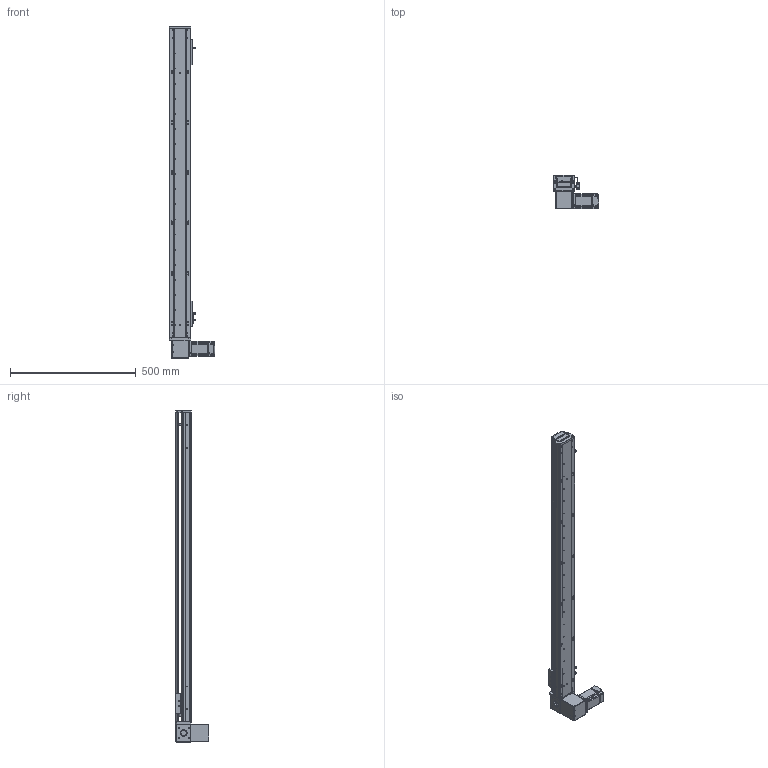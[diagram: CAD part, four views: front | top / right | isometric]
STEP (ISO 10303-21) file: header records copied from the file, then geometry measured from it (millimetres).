
FILE_DESCRIPTION (( 'STEP AP203' ), '1' );
FILE_NAME ('RY80-T-300-DR.SLDASM_1050.step', '2021-03-01T01:50:13', ( '盈信电脑' ), ( '东莞市道滘镇水果街19号' ), 'SwSTEP 2.0', 'SolidWorks 2012', '' );
FILE_SCHEMA (( 'CONFIG_CONTROL_DESIGN' ));
Products named in the file (18): RY80-T-M4蹟翐3; 1; RY80-T萇儂假蚾啣; RY80-T-300-DR.SLDASM_1050; 滅袉蝶18-10; RY80-T-上下折同步轮盖板; RY80-T翋肮祭謫裔啣; RY80-T肮祭謫狟殏俋欶; RY80-T肮祭湍揤輸1; RY80-T肮祭湍揤輸2; 覜茼ん672; RY80俋离覜茼え; RY80-T-翋肮祭謫釱; RY80-T肮祭謫臏賑輸; RY80-T綴裔啣; RY80-T-300-DR倰第奻裔啣_1050; 672嫖萇羲壽假蚾釱; RY80-T-300-DR倰第菁釱_1050
Assembly tree (21 placements, depth 2):
  RY80-T-300-DR.SLDASM_1050
    RY80-T-300-DR倰第菁釱_1050
    RY80-T肮祭謫臏賑輸
    RY80-T-300-DR倰第奻裔啣_1050
    RY80-T綴裔啣
    672嫖萇羲壽假蚾釱  x2
    覜茼ん672  x3
    RY80俋离覜茼え
    RY80-T-翋肮祭謫釱
    RY80-T肮祭湍揤輸1
    RY80-T肮祭湍揤輸2
    滅袉蝶18-10  x2
    RY80-T翋肮祭謫裔啣
    RY80-T-上下折同步轮盖板
    RY80-T肮祭謫狟殏俋欶
    RY80-T萇儂假蚾啣
    1
    RY80-T-M4蹟翐3
Bounding box: 180 x 134.5 x 1320 mm (x, y, z)
Volume: 2231751.1 mm3; surface area: 931684 mm2
Topology: 21 solids, 21 shells, 2386 faces, 6590 edges, 4278 vertices
Faces by surface type: plane 1299, cylinder 891, cone 140, bspline 56
Entity records: 75664 total; most frequent: CARTESIAN_POINT 18130, ORIENTED_EDGE 11824, DIRECTION 11144, EDGE_CURVE 5912, VERTEX_POINT 3882, AXIS2_PLACEMENT_3D 3728, LINE 3688, VECTOR 3688
